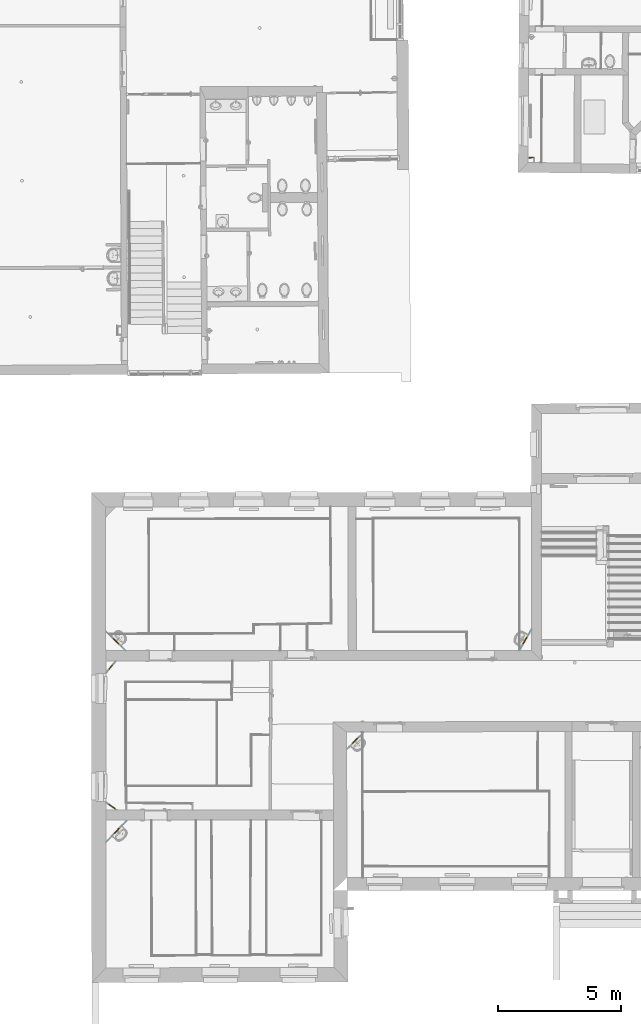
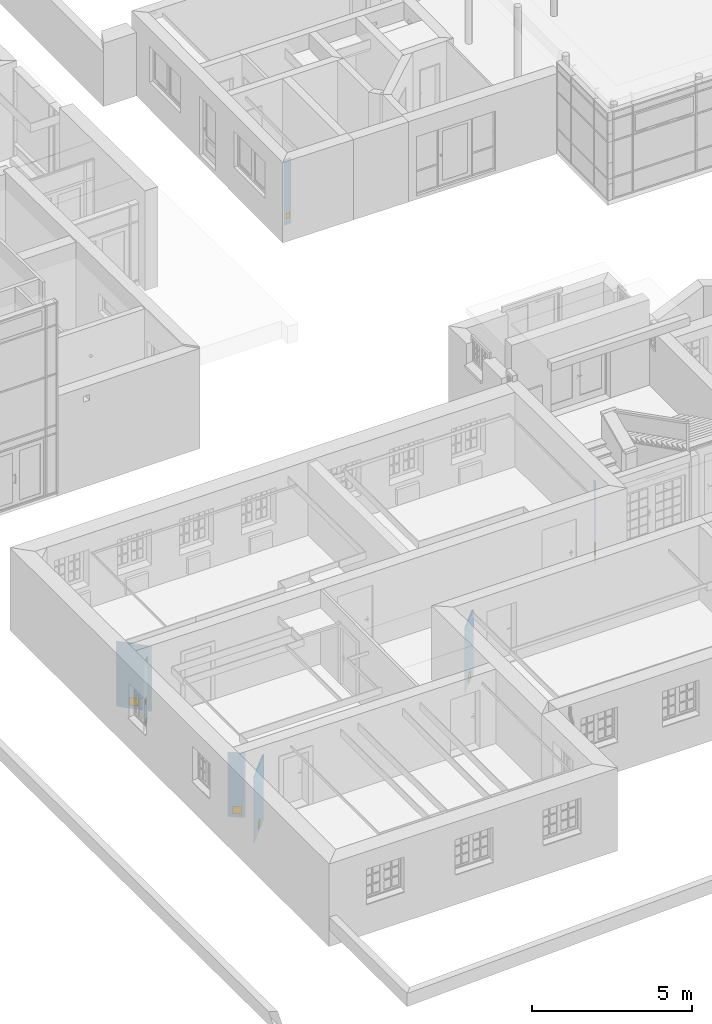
# One storey, part 114 of 196: 8 doors, 8 openings, plus 7 elements that do not belong to this part.
"""IFC2X3 building model written with IfcOpenShell, lengths in metres."""

from ifc_helpers import new_model, entity, si_unit, converted_unit, derived_unit, money_unit, direction, frame, origin_with_axes, origin_2d_with_axis, place, context, subcontext, project, spatial, polyline, rectangle, outline, extrude, faceted_brep, material, layer, layer_set, layer_usage, type_object, element, fill, save


model = new_model("IFC2X3")

# Units and contexts
model_context = context("Model", 3, precision=1e-05, world=origin_with_axes(), true_north=direction((0.0, 1.0)))
body_context = subcontext(model_context, "Body", "Model", "MODEL_VIEW")
ifc_project = project(units=[si_unit("LENGTHUNIT", "METRE"), si_unit("AREAUNIT", "SQUARE_METRE"), si_unit("VOLUMEUNIT", "CUBIC_METRE"), converted_unit("PLANEANGLEUNIT", "DEGREE", entity("IfcPlaneAngleMeasure", 0.0174532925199), si_unit("PLANEANGLEUNIT", "RADIAN"), dimensions=[0, 0, 0, 0, 0, 0, 0]), money_unit("EUR"), converted_unit("TIMEUNIT", "Year", entity("IfcTimeMeasure", 31556926.0), si_unit("TIMEUNIT", "SECOND"), dimensions=[0, 0, 1, 0, 0, 0, 0]), si_unit("MASSUNIT", "GRAM", prefix="KILO"), si_unit("THERMODYNAMICTEMPERATUREUNIT", "DEGREE_CELSIUS"), si_unit("LUMINOUSINTENSITYUNIT", "LUMEN"), si_unit("ENERGYUNIT", "JOULE", prefix="MEGA"), derived_unit("THERMALCONDUCTANCEUNIT", [(si_unit("POWERUNIT", "WATT"), 1), (si_unit("LENGTHUNIT", "METRE"), -1), (si_unit("THERMODYNAMICTEMPERATUREUNIT", "KELVIN"), -1)]), derived_unit("SPECIFICHEATCAPACITYUNIT", [(si_unit("ENERGYUNIT", "JOULE"), 1), (si_unit("MASSUNIT", "GRAM", prefix="KILO"), -1), (si_unit("THERMODYNAMICTEMPERATUREUNIT", "KELVIN"), -1)]), derived_unit("MASSDENSITYUNIT", [(si_unit("MASSUNIT", "GRAM", prefix="KILO"), 1), (si_unit("VOLUMEUNIT", "CUBIC_METRE"), -1)])], contexts=[model_context])

# Site, building, storey
site_placement = place(None, origin_with_axes())
site = spatial("IfcSite", under=ifc_project, at=site_placement, Name="Gelände", CompositionType="ELEMENT")
building_placement = place(site_placement, origin_with_axes())
building = spatial("IfcBuilding", under=site, at=building_placement, Name="Gebäude", CompositionType="ELEMENT")
storey_placement = place(building_placement, frame((0.0, 0.0, -3.0), z_axis=(0.0, 0.0, 1.0), x_axis=(1.0, 0.0, 0.0)))
storey = spatial("IfcBuildingStorey", under=building, at=storey_placement, Name="KELLERGESCHOSS", CompositionType="ELEMENT", Elevation=-3.0)

# Wall, opening, door
ifc_material = material(Name="43_Gipskarton")
ifc_layer = layer(ifc_material, 0.03, ventilated="UNKNOWN")
ifc_layer_set = layer_set([ifc_layer], Name="43_Gipskarton 0.03")
ifc_layer_usage_1 = layer_usage(ifc_layer_set, "AXIS2", "NEGATIVE", 0.0)
wall_type = type_object("IfcWallType", Name="43_Gipskarton 30", PredefinedType="ELEMENTEDWALL")
wall_1_placement = place(storey_placement, frame((-10.7933555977, 39.6868893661, 0.61), z_axis=(0.0, 0.0, 1.0), x_axis=(0.999245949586, 0.0388269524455, 0.0)))
wall_1 = element("IfcWallStandardCase", 1, at=wall_1_placement, inside=storey, type_object=wall_type, material=ifc_layer_usage_1, Name="Wand-031", ObjectType="ELEMENTEDWALL", context=body_context, shape_type="SweptSolid", body=[
    extrude(outline(polyline([(0.399061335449, -0.03), (0.624877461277, -0.03), (0.657069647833, 0.0), (0.400395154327, 0.0), (0.399061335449, -0.03)])), origin_with_axes(), (0.0, 0.0, 1.0), 2.49),
])
opening_1_placement = place(wall_1_placement, frame((0.530120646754, 0.0, 0.237179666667), z_axis=(0.0, 0.0, 1.0), x_axis=(1.0, 0.0, 0.0)))
opening_1 = element("IfcOpeningElement", 2, at=opening_1_placement, cuts=wall_1, Name="Tür-022", context=body_context, shape_type="SweptSolid", body=[
    extrude(rectangle(XDim=0.147571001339, YDim=0.196508, at=origin_2d_with_axis()), frame((0.0, 0.03, 0.098254), z_axis=(0.0, -1.0, 0.0), x_axis=(1.0, 0.0, 0.0)), (0.0, 0.0, 1.0), 0.09),
])
door_style = type_object("IfcDoorStyle", Name="Blockrahmentür 1-Fl 25", ConstructionType="NOTDEFINED", OperationType="SINGLE_SWING_RIGHT", ParameterTakesPrecedence=False, Sizeable=False)
door_1_placement = place(opening_1_placement, frame((-0.0707855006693, 0.0, 0.0), z_axis=(0.0, 0.0, 1.0), x_axis=(1.0, 0.0, 0.0)))
door_1 = element("IfcDoor", 3, at=door_1_placement, inside=storey, type_object=door_style, Name="Tür-022", ObjectType="NOTDEFINED", OverallHeight=0.196508, OverallWidth=0.147571, context=body_context, shape_type="Brep", body=[
    faceted_brep([(0.144571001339, -0.03, 0.0), (0.144571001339, 0.0, 0.0), (0.144571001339, 0.0, 0.196508), (0.144571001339, -0.03, 0.196508), (0.141571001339, -0.03, 0.0), (0.141571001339, 0.0, 0.0), (0.141571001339, 0.0, 0.193508), (0.170885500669, 0.0, 0.193508), (0.0708855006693, 0.0, 0.193508), (0.0, 0.0, 0.193508), (0.0, 0.0, 0.0), (-0.003, 0.0, 0.0), (-0.003, 0.0, 0.196508), (-0.003, -0.03, 0.196508), (-0.003, -0.03, 0.0), (0.0, -0.03, 0.0), (0.0, -0.03, 0.193508), (0.0708855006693, -0.03, 0.193508), (0.170885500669, -0.03, 0.193508), (0.141571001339, -0.03, 0.193508)], [[[0, 1, 2, 3]], [[4, 5, 1, 0]], [[1, 5, 6, 7, 8, 9, 10, 11, 12, 2]], [[3, 2, 12, 13]], [[0, 3, 13, 14, 15, 16, 17, 18, 19, 4]], [[19, 6, 5, 4]], [[18, 7, 6, 19]], [[17, 8, 7, 18]], [[16, 9, 8, 17]], [[15, 10, 9, 16]], [[14, 11, 10, 15]], [[13, 12, 11, 14]]]),
    faceted_brep([(0.141571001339, 0.0, 0.0), (0.0, 0.0, 0.0), (0.0, 0.0, 0.193508), (0.141571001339, 0.0, 0.193508), (0.141571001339, -0.03, 0.0), (0.0, -0.03, 0.0), (0.0, -0.03, 0.193508), (0.141571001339, -0.03, 0.193508)], [[[0, 1, 2, 3]], [[1, 0, 4, 5]], [[2, 1, 5, 6]], [[3, 2, 6, 7]], [[0, 3, 7, 4]], [[5, 4, 7, 6]]]),
])
fill(opening_1, door_1)

# Wall, openings, doors
ifc_layer_usage_2 = layer_usage(ifc_layer_set, "AXIS2", "NEGATIVE", 0.03)
wall_2_placement = place(storey_placement, frame((-28.1209236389, 18.0579232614, -0.04), z_axis=(0.0, 0.0, 1.0), x_axis=(0.644265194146, 0.764802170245, 0.0)))
wall_2 = element("IfcWallStandardCase", 4, at=wall_2_placement, inside=storey, type_object=wall_type, material=ifc_layer_usage_2, Name="Wand-034", ObjectType="ELEMENTEDWALL", context=body_context, shape_type="SweptSolid", body=[
    extrude(outline(polyline([(0.899253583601, 0.0), (1.57333221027, 0.0), (1.5480461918, 0.03), (0.934798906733, 0.03), (0.899253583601, 0.0)])), origin_with_axes(), (0.0, 0.0, 1.0), 2.46),
])
opening_2_placement = place(wall_2_placement, frame((1.2345161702, 0.0, 0.127336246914), z_axis=(0.0, 0.0, 1.0), x_axis=(1.0, 0.0, 0.0)))
opening_2 = element("IfcOpeningElement", 5, at=opening_2_placement, cuts=wall_2, Name="Tür-022", context=body_context, shape_type="SweptSolid", body=[
    extrude(rectangle(XDim=0.200072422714, YDim=0.194292, at=origin_2d_with_axis()), frame((0.0, 0.03, 0.097146), z_axis=(0.0, -1.0, 0.0), x_axis=(-1.0, 0.0, 0.0)), (0.0, 0.0, 1.0), 0.09),
])
opening_3_placement = place(wall_2_placement, frame((1.23168819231, 0.0, 0.908409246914), z_axis=(0.0, 0.0, 1.0), x_axis=(1.0, 0.0, 0.0)))
opening_3 = element("IfcOpeningElement", 6, at=opening_3_placement, cuts=wall_2, Name="Tür-022", context=body_context, shape_type="SweptSolid", body=[
    extrude(rectangle(XDim=0.202008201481, YDim=0.196641, at=origin_2d_with_axis()), frame((0.0, 0.03, 0.0983205), z_axis=(0.0, -1.0, 0.0), x_axis=(-1.0, 0.0, 0.0)), (0.0, 0.0, 1.0), 0.09),
])
door_2_placement = place(opening_2_placement, frame((0.0970362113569, 0.0, 0.0), z_axis=(0.0, 0.0, 1.0), x_axis=(-1.0, 0.0, 0.0)))
door_2 = element("IfcDoor", 7, at=door_2_placement, inside=storey, type_object=door_style, Name="Tür-022", ObjectType="NOTDEFINED", OverallHeight=0.194292, OverallWidth=0.200072, context=body_context, shape_type="Brep", body=[
    faceted_brep([(0.197072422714, -0.03, 0.0), (0.197072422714, 0.0, 0.0), (0.197072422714, 0.0, 0.194292), (0.197072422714, -0.03, 0.194292), (0.194072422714, -0.03, 0.0), (0.194072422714, 0.0, 0.0), (0.194072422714, 0.0, 0.191292), (0.197136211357, 0.0, 0.191292), (0.0971362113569, 0.0, 0.191292), (0.0, 0.0, 0.191292), (0.0, 0.0, 0.0), (-0.003, 0.0, 0.0), (-0.003, 0.0, 0.194292), (-0.003, -0.03, 0.194292), (-0.003, -0.03, 0.0), (0.0, -0.03, 0.0), (0.0, -0.03, 0.191292), (0.0971362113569, -0.03, 0.191292), (0.197136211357, -0.03, 0.191292), (0.194072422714, -0.03, 0.191292)], [[[0, 1, 2, 3]], [[4, 5, 1, 0]], [[1, 5, 6, 7, 8, 9, 10, 11, 12, 2]], [[3, 2, 12, 13]], [[0, 3, 13, 14, 15, 16, 17, 18, 19, 4]], [[19, 6, 5, 4]], [[18, 7, 6, 19]], [[17, 8, 7, 18]], [[16, 9, 8, 17]], [[15, 10, 9, 16]], [[14, 11, 10, 15]], [[13, 12, 11, 14]]]),
    faceted_brep([(0.194072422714, 0.0, 0.0), (0.0, 0.0, 0.0), (0.0, 0.0, 0.191292), (0.194072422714, 0.0, 0.191292), (0.194072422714, -0.03, 0.0), (0.0, -0.03, 0.0), (0.0, -0.03, 0.191292), (0.194072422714, -0.03, 0.191292)], [[[0, 1, 2, 3]], [[1, 0, 4, 5]], [[2, 1, 5, 6]], [[3, 2, 6, 7]], [[0, 3, 7, 4]], [[5, 4, 7, 6]]]),
])
fill(opening_2, door_2)
door_3_placement = place(opening_3_placement, frame((0.0980041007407, 0.0, 0.0), z_axis=(0.0, 0.0, 1.0), x_axis=(-1.0, 0.0, 0.0)))
door_3 = element("IfcDoor", 8, at=door_3_placement, inside=storey, type_object=door_style, Name="Tür-022", ObjectType="NOTDEFINED", OverallHeight=0.196641, OverallWidth=0.202008, context=body_context, shape_type="Brep", body=[
    faceted_brep([(0.199008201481, -0.03, 0.0), (0.199008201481, 0.0, 0.0), (0.199008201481, 0.0, 0.196641), (0.199008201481, -0.03, 0.196641), (0.196008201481, -0.03, 0.0), (0.196008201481, 0.0, 0.0), (0.196008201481, 0.0, 0.193641), (0.198104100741, 0.0, 0.193641), (0.0981041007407, 0.0, 0.193641), (0.0, 0.0, 0.193641), (0.0, 0.0, 0.0), (-0.003, 0.0, 0.0), (-0.003, 0.0, 0.196641), (-0.003, -0.03, 0.196641), (-0.003, -0.03, 0.0), (0.0, -0.03, 0.0), (0.0, -0.03, 0.193641), (0.0981041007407, -0.03, 0.193641), (0.198104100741, -0.03, 0.193641), (0.196008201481, -0.03, 0.193641)], [[[0, 1, 2, 3]], [[4, 5, 1, 0]], [[1, 5, 6, 7, 8, 9, 10, 11, 12, 2]], [[3, 2, 12, 13]], [[0, 3, 13, 14, 15, 16, 17, 18, 19, 4]], [[19, 6, 5, 4]], [[18, 7, 6, 19]], [[17, 8, 7, 18]], [[16, 9, 8, 17]], [[15, 10, 9, 16]], [[14, 11, 10, 15]], [[13, 12, 11, 14]]]),
    faceted_brep([(0.196008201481, 0.0, 0.0), (0.0, 0.0, 0.0), (0.0, 0.0, 0.193641), (0.196008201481, 0.0, 0.193641), (0.196008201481, -0.03, 0.0), (0.0, -0.03, 0.0), (0.0, -0.03, 0.193641), (0.196008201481, -0.03, 0.193641)], [[[0, 1, 2, 3]], [[1, 0, 4, 5]], [[2, 1, 5, 6]], [[3, 2, 6, 7]], [[0, 3, 7, 4]], [[5, 4, 7, 6]]]),
])
fill(opening_3, door_3)

# Wall, opening, door
ifc_layer_usage_3 = layer_usage(ifc_layer_set, "AXIS2", "NEGATIVE", 0.03)
wall_3_placement = place(storey_placement, frame((-26.2901983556, 19.2614370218, -0.0458857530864), z_axis=(0.0, 0.0, 1.0), x_axis=(-0.715331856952, 0.698784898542, 0.0)))
wall_3 = element("IfcWallStandardCase", 9, at=wall_3_placement, inside=storey, type_object=wall_type, material=ifc_layer_usage_3, Name="Wand-034", ObjectType="ELEMENTEDWALL", context=body_context, shape_type="SweptSolid", body=[
    extrude(outline(polyline([(0.586566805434, 0.0), (1.75162438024, 0.0), (1.72226351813, 0.03), (0.617260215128, 0.03), (0.586566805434, 0.0)])), origin_with_axes(), (0.0, 0.0, 1.0), 2.48588575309),
])
opening_4_placement = place(wall_3_placement, frame((1.15977345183, 0.0, 0.1290015), z_axis=(0.0, 0.0, 1.0), x_axis=(1.0, 0.0, 0.0)))
opening_4 = element("IfcOpeningElement", 10, at=opening_4_placement, cuts=wall_3, Name="Tür-022", context=body_context, shape_type="SweptSolid", body=[
    extrude(rectangle(XDim=0.295992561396, YDim=0.299404, at=origin_2d_with_axis()), frame((0.0, 0.03, 0.149702), z_axis=(0.0, -1.0, 0.0), x_axis=(-1.0, 0.0, 0.0)), (0.0, 0.0, 1.0), 0.09),
])
door_4_placement = place(opening_4_placement, frame((0.144996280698, 0.0, 0.0), z_axis=(0.0, 0.0, 1.0), x_axis=(-1.0, 0.0, 0.0)))
door_4 = element("IfcDoor", 11, at=door_4_placement, inside=storey, type_object=door_style, Name="Tür-022", ObjectType="NOTDEFINED", OverallHeight=0.299404, OverallWidth=0.295993, context=body_context, shape_type="Brep", body=[
    faceted_brep([(0.292992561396, -0.03, 0.0), (0.292992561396, 0.0, 0.0), (0.292992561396, 0.0, 0.299404), (0.292992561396, -0.03, 0.299404), (0.289992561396, -0.03, 0.0), (0.289992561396, 0.0, 0.0), (0.289992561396, 0.0, 0.296404), (0.245096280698, 0.0, 0.296404), (0.145096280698, 0.0, 0.296404), (0.0, 0.0, 0.296404), (0.0, 0.0, 0.0), (-0.003, 0.0, 0.0), (-0.003, 0.0, 0.299404), (-0.003, -0.03, 0.299404), (-0.003, -0.03, 0.0), (0.0, -0.03, 0.0), (0.0, -0.03, 0.296404), (0.145096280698, -0.03, 0.296404), (0.245096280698, -0.03, 0.296404), (0.289992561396, -0.03, 0.296404)], [[[0, 1, 2, 3]], [[4, 5, 1, 0]], [[1, 5, 6, 7, 8, 9, 10, 11, 12, 2]], [[3, 2, 12, 13]], [[0, 3, 13, 14, 15, 16, 17, 18, 19, 4]], [[19, 6, 5, 4]], [[18, 7, 6, 19]], [[17, 8, 7, 18]], [[16, 9, 8, 17]], [[15, 10, 9, 16]], [[14, 11, 10, 15]], [[13, 12, 11, 14]]]),
    faceted_brep([(0.289992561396, 0.0, 0.0), (0.0, 0.0, 0.0), (0.0, 0.0, 0.296404), (0.289992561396, 0.0, 0.296404), (0.289992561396, -0.03, 0.0), (0.0, -0.03, 0.0), (0.0, -0.03, 0.296404), (0.289992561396, -0.03, 0.296404)], [[[0, 1, 2, 3]], [[1, 0, 4, 5]], [[2, 1, 5, 6]], [[3, 2, 6, 7]], [[0, 3, 7, 4]], [[5, 4, 7, 6]]]),
])
fill(opening_4, door_4)

ifc_layer_usage_4 = layer_usage(ifc_layer_set, "AXIS2", "NEGATIVE", 0.03)
wall_4_placement = place(storey_placement, frame((-17.7595314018, 15.6437168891, -0.0443482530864), z_axis=(0.0, 0.0, 1.0), x_axis=(0.703164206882, 0.711027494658, 0.0)))
wall_4 = element("IfcWallStandardCase", 12, at=wall_4_placement, inside=storey, type_object=wall_type, material=ifc_layer_usage_4, Name="Wand-034", ObjectType="ELEMENTEDWALL", context=body_context, shape_type="SweptSolid", body=[
    extrude(outline(polyline([(0.0, 0.0), (1.01758646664, 0.0), (0.98776270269, 0.03), (0.0302181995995, 0.03), (0.0, 0.0)])), origin_with_axes(), (0.0, 0.0, 1.0), 2.48434825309),
])
opening_5_placement = place(wall_4_placement, frame((0.497782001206, 0.0, 0.122599), z_axis=(0.0, 0.0, 1.0), x_axis=(1.0, 0.0, 0.0)))
opening_5 = element("IfcOpeningElement", 13, at=opening_5_placement, cuts=wall_4, Name="Tür-022", context=body_context, shape_type="SweptSolid", body=[
    extrude(rectangle(XDim=0.296551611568, YDim=0.294192, at=origin_2d_with_axis()), frame((0.0, -0.03, 0.147096), z_axis=(0.0, 1.0, 0.0), x_axis=(-1.0, 0.0, 0.0)), (0.0, 0.0, 1.0), 0.09),
])
door_5_placement = place(opening_5_placement, frame((0.145275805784, 0.0, 0.0), z_axis=(0.0, 0.0, 1.0), x_axis=(-1.0, 0.0, 0.0)))
door_5 = element("IfcDoor", 14, at=door_5_placement, inside=storey, type_object=door_style, Name="Tür-022", ObjectType="NOTDEFINED", OverallHeight=0.294192, OverallWidth=0.296552, context=body_context, shape_type="Brep", body=[
    faceted_brep([(0.293551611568, -0.03, 0.0), (0.293551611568, 0.0, 0.0), (0.293551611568, 0.0, 0.294192), (0.293551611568, -0.03, 0.294192), (0.290551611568, -0.03, 0.0), (0.290551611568, 0.0, 0.0), (0.290551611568, 0.0, 0.291192), (0.245375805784, 0.0, 0.291192), (0.145375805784, 0.0, 0.291192), (0.0, 0.0, 0.291192), (0.0, 0.0, 0.0), (-0.003, 0.0, 0.0), (-0.003, 0.0, 0.294192), (-0.003, -0.03, 0.294192), (-0.003, -0.03, 0.0), (0.0, -0.03, 0.0), (0.0, -0.03, 0.291192), (0.145375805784, -0.03, 0.291192), (0.245375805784, -0.03, 0.291192), (0.290551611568, -0.03, 0.291192)], [[[0, 1, 2, 3]], [[4, 5, 1, 0]], [[1, 5, 6, 7, 8, 9, 10, 11, 12, 2]], [[3, 2, 12, 13]], [[0, 3, 13, 14, 15, 16, 17, 18, 19, 4]], [[19, 6, 5, 4]], [[18, 7, 6, 19]], [[17, 8, 7, 18]], [[16, 9, 8, 17]], [[15, 10, 9, 16]], [[14, 11, 10, 15]], [[13, 12, 11, 14]]]),
    faceted_brep([(0.290551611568, 0.0, 0.0), (0.0, 0.0, 0.0), (0.0, 0.0, 0.291192), (0.290551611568, 0.0, 0.291192), (0.290551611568, -0.03, 0.0), (0.0, -0.03, 0.0), (0.0, -0.03, 0.291192), (0.290551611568, -0.03, 0.291192)], [[[0, 1, 2, 3]], [[1, 0, 4, 5]], [[2, 1, 5, 6]], [[3, 2, 6, 7]], [[0, 3, 7, 4]], [[5, 4, 7, 6]]]),
])
fill(opening_5, door_5)

ifc_layer_usage_5 = layer_usage(ifc_layer_set, "AXIS2", "NEGATIVE", 0.03)
wall_5_placement = place(storey_placement, frame((-27.0749924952, 13.2046491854, -0.04), z_axis=(0.0, 0.0, 1.0), x_axis=(-0.814239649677, 0.580528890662, 0.0)))
wall_5 = element("IfcWallStandardCase", 15, at=wall_5_placement, inside=storey, type_object=wall_type, material=ifc_layer_usage_5, Name="Wand-035", ObjectType="ELEMENTEDWALL", context=body_context, shape_type="SweptSolid", body=[
    extrude(outline(polyline([(0.0, 0.0), (0.567037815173, 0.0), (0.545606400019, 0.03), (0.0421807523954, 0.03), (0.0, 0.0)])), origin_with_axes(), (0.0, 0.0, 1.0), 2.46),
])
opening_6_placement = place(wall_5_placement, frame((0.259947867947, 0.0, 0.122676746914), z_axis=(0.0, 0.0, 1.0), x_axis=(1.0, 0.0, 0.0)))
opening_6 = element("IfcOpeningElement", 16, at=opening_6_placement, cuts=wall_5, Name="Tür-022", context=body_context, shape_type="SweptSolid", body=[
    extrude(rectangle(XDim=0.297564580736, YDim=0.296812, at=origin_2d_with_axis()), frame((0.0, 0.03, 0.148406), z_axis=(0.0, -1.0, 0.0), x_axis=(-1.0, 0.0, 0.0)), (0.0, 0.0, 1.0), 0.09),
])
door_6_placement = place(opening_6_placement, frame((0.145782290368, 0.0, 0.0), z_axis=(0.0, 0.0, 1.0), x_axis=(-1.0, 0.0, 0.0)))
door_6 = element("IfcDoor", 17, at=door_6_placement, inside=storey, type_object=door_style, Name="Tür-022", ObjectType="NOTDEFINED", OverallHeight=0.296812, OverallWidth=0.297565, context=body_context, shape_type="Brep", body=[
    faceted_brep([(0.294564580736, -0.03, 0.0), (0.294564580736, 0.0, 0.0), (0.294564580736, 0.0, 0.296812), (0.294564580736, -0.03, 0.296812), (0.291564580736, -0.03, 0.0), (0.291564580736, 0.0, 0.0), (0.291564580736, 0.0, 0.293812), (0.245882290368, 0.0, 0.293812), (0.145882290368, 0.0, 0.293812), (0.0, 0.0, 0.293812), (0.0, 0.0, 0.0), (-0.003, 0.0, 0.0), (-0.003, 0.0, 0.296812), (-0.003, -0.03, 0.296812), (-0.003, -0.03, 0.0), (0.0, -0.03, 0.0), (0.0, -0.03, 0.293812), (0.145882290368, -0.03, 0.293812), (0.245882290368, -0.03, 0.293812), (0.291564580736, -0.03, 0.293812)], [[[0, 1, 2, 3]], [[4, 5, 1, 0]], [[1, 5, 6, 7, 8, 9, 10, 11, 12, 2]], [[3, 2, 12, 13]], [[0, 3, 13, 14, 15, 16, 17, 18, 19, 4]], [[19, 6, 5, 4]], [[18, 7, 6, 19]], [[17, 8, 7, 18]], [[16, 9, 8, 17]], [[15, 10, 9, 16]], [[14, 11, 10, 15]], [[13, 12, 11, 14]]]),
    faceted_brep([(0.291564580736, 0.0, 0.0), (0.0, 0.0, 0.0), (0.0, 0.0, 0.293812), (0.291564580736, 0.0, 0.293812), (0.291564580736, -0.03, 0.0), (0.0, -0.03, 0.0), (0.0, -0.03, 0.293812), (0.291564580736, -0.03, 0.293812)], [[[0, 1, 2, 3]], [[1, 0, 4, 5]], [[2, 1, 5, 6]], [[3, 2, 6, 7]], [[0, 3, 7, 4]], [[5, 4, 7, 6]]]),
])
fill(opening_6, door_6)

ifc_layer_usage_6 = layer_usage(ifc_layer_set, "AXIS2", "NEGATIVE", 0.03)
wall_6_placement = place(storey_placement, frame((-28.1145678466, 11.2541602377, -0.0414357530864), z_axis=(0.0, 0.0, 1.0), x_axis=(0.686347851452, 0.727273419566, 0.0)))
wall_6 = element("IfcWallStandardCase", 18, at=wall_6_placement, inside=storey, type_object=wall_type, material=ifc_layer_usage_6, Name="Wand-035", ObjectType="ELEMENTEDWALL", context=body_context, shape_type="SweptSolid", body=[
    extrude(outline(polyline([(0.844217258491, 0.0), (2.11751089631, 0.0), (2.08926470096, 0.03), (0.87594666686, 0.03), (0.844217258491, 0.0)])), origin_with_axes(), (0.0, 0.0, 1.0), 2.50143575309),
])
opening_7_placement = place(wall_6_placement, frame((1.49431739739, 0.0, 0.1234065), z_axis=(0.0, 0.0, 1.0), x_axis=(1.0, 0.0, 0.0)))
opening_7 = element("IfcOpeningElement", 19, at=opening_7_placement, cuts=wall_6, Name="Tür-022", context=body_context, shape_type="SweptSolid", body=[
    extrude(rectangle(XDim=0.30048911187, YDim=0.295869, at=origin_2d_with_axis()), frame((0.0, 0.03, 0.1479345), z_axis=(0.0, -1.0, 0.0), x_axis=(-1.0, 0.0, 0.0)), (0.0, 0.0, 1.0), 0.09),
])
door_7_placement = place(opening_7_placement, frame((0.147244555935, 0.0, 0.0), z_axis=(0.0, 0.0, 1.0), x_axis=(-1.0, 0.0, 0.0)))
door_7 = element("IfcDoor", 20, at=door_7_placement, inside=storey, type_object=door_style, Name="Tür-022", ObjectType="NOTDEFINED", OverallHeight=0.295869, OverallWidth=0.300489, context=body_context, shape_type="Brep", body=[
    faceted_brep([(0.29748911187, -0.03, 0.0), (0.29748911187, 0.0, 0.0), (0.29748911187, 0.0, 0.295869), (0.29748911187, -0.03, 0.295869), (0.29448911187, -0.03, 0.0), (0.29448911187, 0.0, 0.0), (0.29448911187, 0.0, 0.292869), (0.247344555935, 0.0, 0.292869), (0.147344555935, 0.0, 0.292869), (0.0, 0.0, 0.292869), (0.0, 0.0, 0.0), (-0.003, 0.0, 0.0), (-0.003, 0.0, 0.295869), (-0.003, -0.03, 0.295869), (-0.003, -0.03, 0.0), (0.0, -0.03, 0.0), (0.0, -0.03, 0.292869), (0.147344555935, -0.03, 0.292869), (0.247344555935, -0.03, 0.292869), (0.29448911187, -0.03, 0.292869)], [[[0, 1, 2, 3]], [[4, 5, 1, 0]], [[1, 5, 6, 7, 8, 9, 10, 11, 12, 2]], [[3, 2, 12, 13]], [[0, 3, 13, 14, 15, 16, 17, 18, 19, 4]], [[19, 6, 5, 4]], [[18, 7, 6, 19]], [[17, 8, 7, 18]], [[16, 9, 8, 17]], [[15, 10, 9, 16]], [[14, 11, 10, 15]], [[13, 12, 11, 14]]]),
    faceted_brep([(0.29448911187, 0.0, 0.0), (0.0, 0.0, 0.0), (0.0, 0.0, 0.292869), (0.29448911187, 0.0, 0.292869), (0.29448911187, -0.03, 0.0), (0.0, -0.03, 0.0), (0.0, -0.03, 0.292869), (0.29448911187, -0.03, 0.292869)], [[[0, 1, 2, 3]], [[1, 0, 4, 5]], [[2, 1, 5, 6]], [[3, 2, 6, 7]], [[0, 3, 7, 4]], [[5, 4, 7, 6]]]),
])
fill(opening_7, door_7)

ifc_layer_usage_7 = layer_usage(ifc_layer_set, "AXIS2", "NEGATIVE", 0.0)
wall_7_placement = place(storey_placement, frame((-10.9995468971, 19.2656639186, -0.0458857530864), z_axis=(0.0, 0.0, 1.0), x_axis=(0.493160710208, 0.86993822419, 0.0)))
wall_7 = element("IfcWallStandardCase", 21, at=wall_7_placement, inside=storey, type_object=wall_type, material=ifc_layer_usage_7, Name="Wand-038", ObjectType="ELEMENTEDWALL", context=body_context, shape_type="SweptSolid", body=[
    extrude(outline(polyline([(0.488389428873, -0.03), (1.46372016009, -0.03), (1.51662871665, 0.0), (0.47137171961, 0.0), (0.488389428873, -0.03)])), origin_with_axes(), (0.0, 0.0, 1.0), 2.48588575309),
])
opening_8_placement = place(wall_7_placement, frame((0.952164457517, 0.0, 0.118209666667), z_axis=(0.0, 0.0, 1.0), x_axis=(1.0, 0.0, 0.0)))
opening_8 = element("IfcOpeningElement", 22, at=opening_8_placement, cuts=wall_7, Name="Tür-022", context=body_context, shape_type="SweptSolid", body=[
    extrude(rectangle(XDim=0.302127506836, YDim=0.291513, at=origin_2d_with_axis()), frame((0.0, 0.03, 0.1457565), z_axis=(0.0, -1.0, 0.0), x_axis=(1.0, 0.0, 0.0)), (0.0, 0.0, 1.0), 0.09),
])
door_8_placement = place(opening_8_placement, frame((-0.148063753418, 0.0, 0.0), z_axis=(0.0, 0.0, 1.0), x_axis=(1.0, 0.0, 0.0)))
door_8 = element("IfcDoor", 23, at=door_8_placement, inside=storey, type_object=door_style, Name="Tür-022", ObjectType="NOTDEFINED", OverallHeight=0.291513, OverallWidth=0.302128, context=body_context, shape_type="Brep", body=[
    faceted_brep([(0.299127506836, -0.03, 0.0), (0.299127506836, 0.0, 0.0), (0.299127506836, 0.0, 0.291513), (0.299127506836, -0.03, 0.291513), (0.296127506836, -0.03, 0.0), (0.296127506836, 0.0, 0.0), (0.296127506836, 0.0, 0.288513), (0.248163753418, 0.0, 0.288513), (0.148163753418, 0.0, 0.288513), (0.0, 0.0, 0.288513), (0.0, 0.0, 0.0), (-0.003, 0.0, 0.0), (-0.003, 0.0, 0.291513), (-0.003, -0.03, 0.291513), (-0.003, -0.03, 0.0), (0.0, -0.03, 0.0), (0.0, -0.03, 0.288513), (0.148163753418, -0.03, 0.288513), (0.248163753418, -0.03, 0.288513), (0.296127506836, -0.03, 0.288513)], [[[0, 1, 2, 3]], [[4, 5, 1, 0]], [[1, 5, 6, 7, 8, 9, 10, 11, 12, 2]], [[3, 2, 12, 13]], [[0, 3, 13, 14, 15, 16, 17, 18, 19, 4]], [[19, 6, 5, 4]], [[18, 7, 6, 19]], [[17, 8, 7, 18]], [[16, 9, 8, 17]], [[15, 10, 9, 16]], [[14, 11, 10, 15]], [[13, 12, 11, 14]]]),
    faceted_brep([(0.296127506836, 0.0, 0.0), (0.0, 0.0, 0.0), (0.0, 0.0, 0.288513), (0.296127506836, 0.0, 0.288513), (0.296127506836, -0.03, 0.0), (0.0, -0.03, 0.0), (0.0, -0.03, 0.288513), (0.296127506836, -0.03, 0.288513)], [[[0, 1, 2, 3]], [[1, 0, 4, 5]], [[2, 1, 5, 6]], [[3, 2, 6, 7]], [[0, 3, 7, 4]], [[5, 4, 7, 6]]]),
])
fill(opening_8, door_8)

save(model, "model.ifc")
